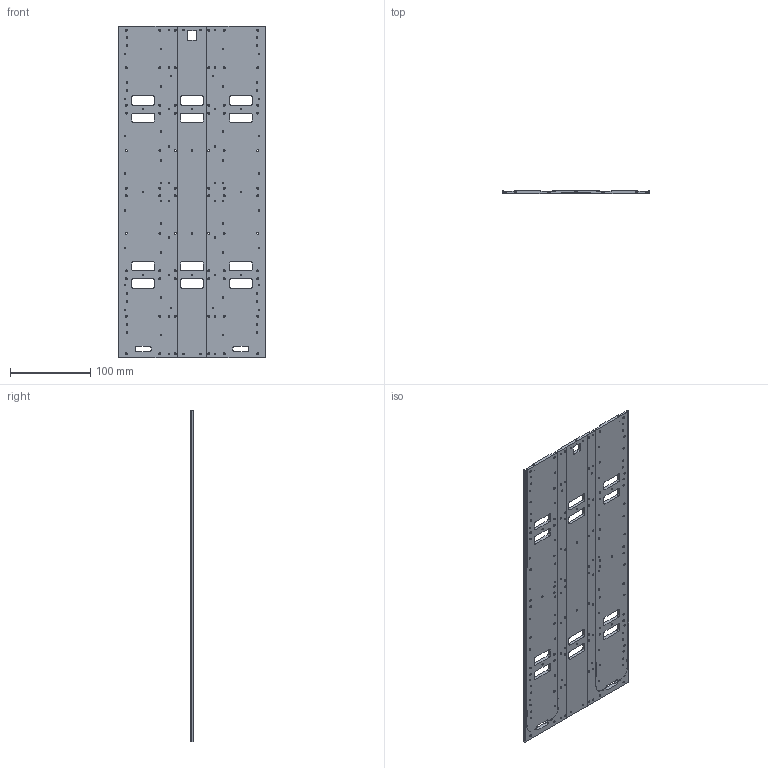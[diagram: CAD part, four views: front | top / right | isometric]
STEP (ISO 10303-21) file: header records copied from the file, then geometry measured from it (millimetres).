
FILE_DESCRIPTION(/* description */ (''),/* implementation_level */ '2;1');
FILE_NAME(/* name */ '210908_TubesOnTop_v3_CPtype1.stp',/* time_stamp */ '2021-09-10T14:18:12+02:00',/* author */ (''),/* organization */ (''),/* preprocessor_version */ 'ST-DEVELOPER v16.7',/* originating_system */ 'SIEMENS PLM Software NX 1919',/* authorisation */ '');
FILE_SCHEMA (('AUTOMOTIVE_DESIGN { 1 0 10303 214 3 1 1 1 }'));
Length unit declared in the file: millimetre
Products named in the file (1): 210908_TubesOnTop_v3_CPtype1
Bounding box: 184 x 4.1 x 413.3 mm (x, y, z)
Volume: 231936.2 mm3; surface area: 163782.2 mm2
Topology: 1 solids, 1 shells, 635 faces, 1762 edges, 1203 vertices
Faces by surface type: cylinder 379, plane 222, cone 18, sphere 8, torus 8
Full cylindrical faces by diameter (mm): 2.05 x90, 2.5 x75, 4 x2, 6 x72
Entity records: 19080 total; most frequent: DIRECTION 3394, CARTESIAN_POINT 3260, ORIENTED_EDGE 2720, AXIS2_PLACEMENT_3D 1414, EDGE_CURVE 1360, EDGE_LOOP 1322, VERTEX_POINT 1060, FACE_BOUND 1034
